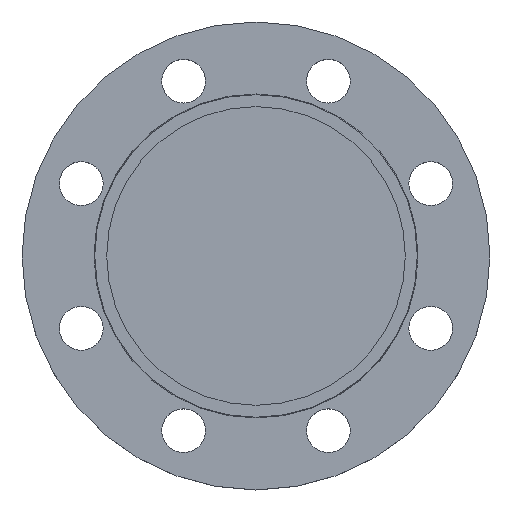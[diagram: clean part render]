
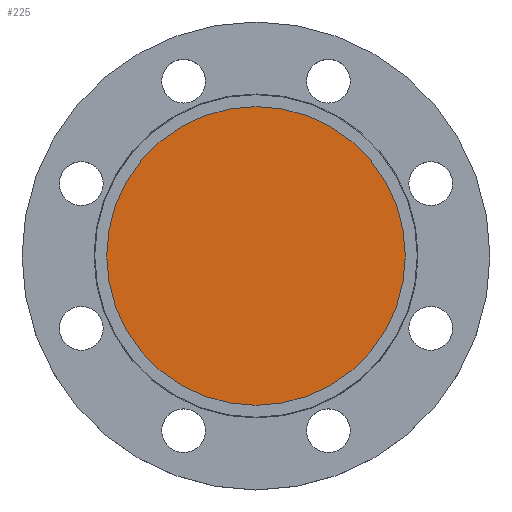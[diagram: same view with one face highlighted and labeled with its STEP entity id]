
A CAD part, top view. The second image highlights one B-rep face of the part: STEP entity #225.
In plain terms, the highlighted planar face has unit normal (0, 0, 1).
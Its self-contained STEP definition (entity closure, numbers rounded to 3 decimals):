
#15 = CARTESIAN_POINT ( 'NONE',  ( 75., 0., -4.5 ) ) ;
#16 = ORIENTED_EDGE ( 'NONE', *, *, #1024, .F. ) ;
#23 = DIRECTION ( 'NONE',  ( -1., 0., 0. ) ) ;
#100 = EDGE_LOOP ( 'NONE', ( #805, #16 ) ) ;
#119 = VERTEX_POINT ( 'NONE', #250 ) ;
#123 = AXIS2_PLACEMENT_3D ( 'NONE', #449, #813, #23 ) ;
#126 = AXIS2_PLACEMENT_3D ( 'NONE', #15, #358, #716 ) ;
#222 = CARTESIAN_POINT ( 'NONE',  ( -75., 0., -4.5 ) ) ;
#225 = ADVANCED_FACE ( 'NONE', ( #441 ), #804, .T. ) ;
#250 = CARTESIAN_POINT ( 'NONE',  ( 75., 0., -4.5 ) ) ;
#308 = DIRECTION ( 'NONE',  ( 0., 0., -1. ) ) ;
#343 = VERTEX_POINT ( 'NONE', #222 ) ;
#358 = DIRECTION ( 'NONE',  ( 0., 0., 1. ) ) ;
#388 = AXIS2_PLACEMENT_3D ( 'NONE', #1098, #308, #661 ) ;
#441 = FACE_OUTER_BOUND ( 'NONE', #100, .T. ) ;
#449 = CARTESIAN_POINT ( 'NONE',  ( 0., 0., -4.5 ) ) ;
#661 = DIRECTION ( 'NONE',  ( -1., 0., 0. ) ) ;
#716 = DIRECTION ( 'NONE',  ( 1., 0., 0. ) ) ;
#754 = EDGE_CURVE ( 'NONE', #343, #119, #1091, .T. ) ;
#804 = PLANE ( 'NONE',  #126 ) ;
#805 = ORIENTED_EDGE ( 'NONE', *, *, #754, .F. ) ;
#813 = DIRECTION ( 'NONE',  ( 0., 0., -1. ) ) ;
#1024 = EDGE_CURVE ( 'NONE', #119, #343, #1107, .T. ) ;
#1091 = CIRCLE ( 'NONE', #388, 75. ) ;
#1098 = CARTESIAN_POINT ( 'NONE',  ( 0., 0., -4.5 ) ) ;
#1107 = CIRCLE ( 'NONE', #123, 75. ) ;
